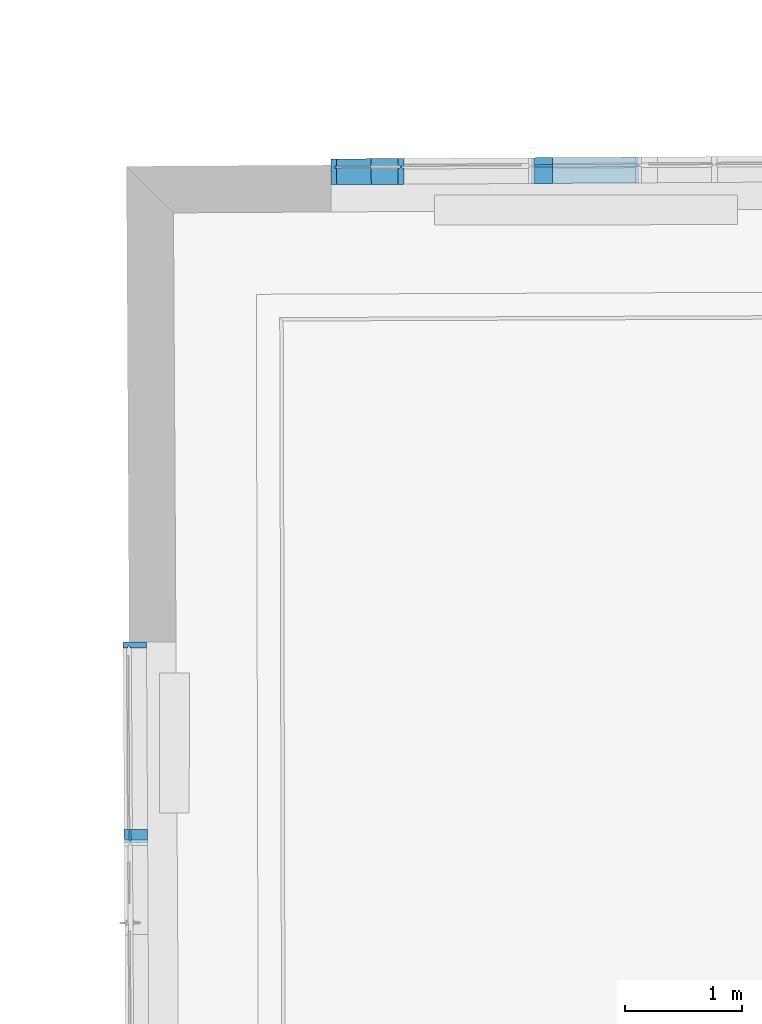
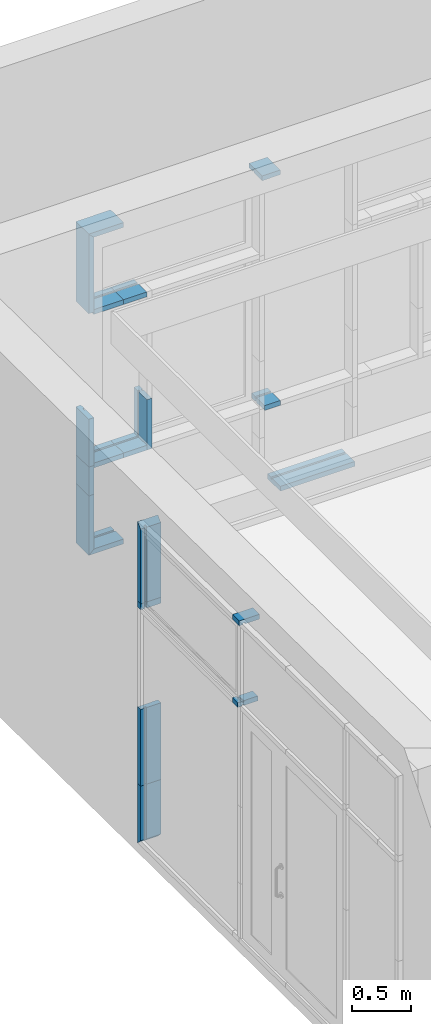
# One storey, part 160 of 196: 20 building element parts, 2 elements without a shape of their own.
"""IFC2X3 building model written with IfcOpenShell, lengths in metres."""

from ifc_helpers import new_model, entity, si_unit, converted_unit, derived_unit, money_unit, direction, frame, origin_with_axes, place, context, subcontext, project, spatial, faceted_brep, material, type_object, element, aggregate, save


model = new_model("IFC2X3")

# Units and contexts
model_context = context("Model", 3, precision=1e-05, world=origin_with_axes(), true_north=direction((0.0, 1.0)))
body_context = subcontext(model_context, "Body", "Model", "MODEL_VIEW")
ifc_project = project(units=[si_unit("LENGTHUNIT", "METRE"), si_unit("AREAUNIT", "SQUARE_METRE"), si_unit("VOLUMEUNIT", "CUBIC_METRE"), converted_unit("PLANEANGLEUNIT", "DEGREE", entity("IfcPlaneAngleMeasure", 0.0174532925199), si_unit("PLANEANGLEUNIT", "RADIAN"), dimensions=[0, 0, 0, 0, 0, 0, 0]), money_unit("EUR"), converted_unit("TIMEUNIT", "Year", entity("IfcTimeMeasure", 31556926.0), si_unit("TIMEUNIT", "SECOND"), dimensions=[0, 0, 1, 0, 0, 0, 0]), si_unit("MASSUNIT", "GRAM", prefix="KILO"), si_unit("THERMODYNAMICTEMPERATUREUNIT", "DEGREE_CELSIUS"), si_unit("LUMINOUSINTENSITYUNIT", "LUMEN"), si_unit("ENERGYUNIT", "JOULE", prefix="MEGA"), derived_unit("THERMALCONDUCTANCEUNIT", [(si_unit("POWERUNIT", "WATT"), 1), (si_unit("LENGTHUNIT", "METRE"), -1), (si_unit("THERMODYNAMICTEMPERATUREUNIT", "KELVIN"), -1)]), derived_unit("SPECIFICHEATCAPACITYUNIT", [(si_unit("ENERGYUNIT", "JOULE"), 1), (si_unit("MASSUNIT", "GRAM", prefix="KILO"), -1), (si_unit("THERMODYNAMICTEMPERATUREUNIT", "KELVIN"), -1)]), derived_unit("MASSDENSITYUNIT", [(si_unit("MASSUNIT", "GRAM", prefix="KILO"), 1), (si_unit("VOLUMEUNIT", "CUBIC_METRE"), -1)])], contexts=[model_context])

# Site, building, storey
site_placement = place(None, origin_with_axes())
site = spatial("IfcSite", under=ifc_project, at=site_placement, Name="Gelände", CompositionType="ELEMENT")
building_placement = place(site_placement, origin_with_axes())
building = spatial("IfcBuilding", under=site, at=building_placement, Name="Gebäude", CompositionType="ELEMENT")
storey_placement = place(building_placement, frame((0.0, 0.0, -3.0), z_axis=(0.0, 0.0, 1.0), x_axis=(1.0, 0.0, 0.0)))
storey = spatial("IfcBuildingStorey", under=building, at=storey_placement, Name="KELLERGESCHOSS", CompositionType="ELEMENT", Elevation=-3.0)

# Proxy, building element parts
building_element_proxy_type = type_object("IfcBuildingElementProxyType", Name="Fassadentyp", PredefinedType="NOTDEFINED")
proxy_1_placement = place(storey_placement, frame((-34.913387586, 47.2552574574, 0.421025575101), z_axis=(0.0, 0.0, 1.0), x_axis=(1.0, 0.0, 0.0)))
proxy_1 = element("IfcBuildingElementProxy", 1, at=proxy_1_placement, inside=storey, type_object=building_element_proxy_type, Name="Fassade-002")
ifc_material = material(Name="53_Metall, Aluminium")
building_element_part_1_placement = place(proxy_1_placement, origin_with_axes())
building_element_part_1 = element("IfcBuildingElementPart", 2, at=building_element_part_1_placement, material=ifc_material, Name="53_Metall, Aluminium", context=body_context, shape_type="Brep", body=[
    faceted_brep([(-0.00495621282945, 2.55018641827, 0.620000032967), (-0.00486824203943, 2.53518667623, 0.620000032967), (0.135129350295, 2.53600773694, 0.620000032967), (0.134836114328, 2.58600687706, 0.620000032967), (-0.0651604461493, 2.58483393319, 0.620000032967), (-0.0648672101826, 2.53483479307, 0.620000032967), (-0.0248678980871, 2.53506938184, 0.620000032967), (-0.0249558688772, 2.55006912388, 0.620000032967), (-0.00495621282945, 2.55018641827, 0.0349999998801), (-0.00486824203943, 2.53518667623, 0.0499999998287), (0.135129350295, 2.53600773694, 0.0499999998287), (0.134836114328, 2.58600687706, 0.0), (-0.0651604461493, 2.58483393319, 0.0), (-0.0648672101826, 2.53483479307, 0.0499999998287), (-0.0248678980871, 2.53506938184, 0.0499999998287), (-0.0249558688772, 2.55006912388, 0.0349999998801)], [[[0, 1, 2, 3, 4, 5, 6, 7]], [[0, 8, 9, 1]], [[9, 10, 2, 1]], [[2, 10, 11, 3]], [[3, 11, 12, 4]], [[4, 12, 13, 5]], [[6, 5, 13, 14]], [[14, 15, 7, 6]], [[7, 15, 8, 0]], [[8, 15, 14, 13, 12, 11, 10, 9]]]),
])
building_element_part_2_placement = place(proxy_1_placement, origin_with_axes())
building_element_part_2 = element("IfcBuildingElementPart", 3, at=building_element_part_2_placement, material=ifc_material, Name="53_Metall, Aluminium", context=body_context, shape_type="Brep", body=[
    faceted_brep([(-0.00495621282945, 2.55018641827, 3.31499994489), (-0.00486824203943, 2.53518667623, 3.29999994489), (0.135129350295, 2.53600773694, 3.29999994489), (0.134836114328, 2.58600687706, 3.34999994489), (-0.0651604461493, 2.58483393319, 3.34999994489), (-0.0648672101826, 2.53483479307, 3.29999994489), (-0.0248678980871, 2.53506938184, 3.29999994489), (-0.0249558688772, 2.55006912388, 3.31499994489), (-0.00495621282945, 2.55018641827, 2.52000003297), (-0.00486824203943, 2.53518667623, 2.52000003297), (0.135129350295, 2.53600773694, 2.52000003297), (0.134836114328, 2.58600687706, 2.52000003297), (-0.0651604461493, 2.58483393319, 2.52000003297), (-0.0648672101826, 2.53483479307, 2.52000003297), (-0.0248678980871, 2.53506938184, 2.52000003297), (-0.0249558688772, 2.55006912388, 2.52000003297)], [[[0, 1, 2, 3, 4, 5, 6, 7]], [[0, 8, 9, 1]], [[9, 10, 2, 1]], [[10, 11, 3, 2]], [[11, 12, 4, 3]], [[12, 13, 5, 4]], [[6, 5, 13, 14]], [[14, 15, 7, 6]], [[7, 15, 8, 0]], [[8, 15, 14, 13, 12, 11, 10, 9]]]),
])
building_element_part_3_placement = place(proxy_1_placement, origin_with_axes())
building_element_part_3 = element("IfcBuildingElementPart", 4, at=building_element_part_3_placement, material=ifc_material, Name="53_Metall, Aluminium", context=body_context, shape_type="Brep", body=[
    faceted_brep([(0.00490654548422, 0.868505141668, 3.31499994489), (0.00490654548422, 0.868505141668, 3.29999994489), (0.144904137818, 0.869326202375, 3.29999994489), (0.144904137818, 0.869326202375, 3.34999994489), (-0.0550924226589, 0.868153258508, 3.34999994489), (-0.0550924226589, 0.868153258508, 3.29999994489), (-0.0150931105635, 0.868387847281, 3.29999994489), (-0.0150931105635, 0.868387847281, 3.31499994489), (0.00424004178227, 0.98214949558, 3.31499994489), (0.00424004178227, 0.98214949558, 3.29999994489), (0.144237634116, 0.982970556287, 3.29999994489), (0.144237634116, 0.982970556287, 3.34999994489), (-0.0557589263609, 0.98179761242, 3.34999994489), (-0.0557589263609, 0.98179761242, 3.29999994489), (-0.0157596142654, 0.982032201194, 3.29999994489), (-0.0157596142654, 0.982032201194, 3.31499994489)], [[[0, 1, 2, 3, 4, 5, 6, 7]], [[0, 8, 9, 1]], [[9, 10, 2, 1]], [[10, 11, 3, 2]], [[11, 12, 4, 3]], [[12, 13, 5, 4]], [[6, 5, 13, 14]], [[14, 15, 7, 6]], [[7, 15, 8, 0]], [[8, 15, 14, 13, 12, 11, 10, 9]]]),
])
building_element_part_4_placement = place(proxy_1_placement, origin_with_axes())
building_element_part_4 = element("IfcBuildingElementPart", 5, at=building_element_part_4_placement, material=ifc_material, Name="53_Metall, Aluminium", context=body_context, shape_type="Brep", body=[
    faceted_brep([(0.00475992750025, 0.893504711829, 2.44764338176), (0.00475992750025, 0.893504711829, 2.43264338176), (0.144757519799, 0.89432577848, 2.43264338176), (0.144757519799, 0.89432577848, 2.48264338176), (0.00475992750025, 0.893504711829, 2.48264338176), (0.00475992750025, 0.893504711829, 2.46764338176), (-0.0152397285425, 0.893387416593, 2.46764338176), (-0.0152397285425, 0.893387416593, 2.48264338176), (-0.055239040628, 0.893152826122, 2.48264338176), (-0.055239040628, 0.893152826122, 2.43264338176), (-0.0152397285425, 0.893387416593, 2.43264338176), (-0.0152397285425, 0.893387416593, 2.44764338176), (0.00424004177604, 0.982149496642, 2.44764338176), (0.00424004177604, 0.982149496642, 2.43264338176), (0.14423763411, 0.982970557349, 2.43264338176), (0.14423763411, 0.982970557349, 2.48264338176), (0.00424004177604, 0.982149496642, 2.48264338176), (0.00424004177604, 0.982149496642, 2.46764338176), (-0.0157596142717, 0.982032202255, 2.46764338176), (-0.0157596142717, 0.982032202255, 2.48264338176), (-0.0557589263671, 0.981797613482, 2.48264338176), (-0.0557589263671, 0.981797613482, 2.43264338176), (-0.0157596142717, 0.982032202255, 2.43264338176), (-0.0157596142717, 0.982032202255, 2.44764338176)], [[[0, 1, 2, 3, 4, 5, 6, 7, 8, 9, 10, 11]], [[1, 0, 12, 13]], [[1, 13, 14, 2]], [[3, 2, 14, 15]], [[4, 3, 15, 16]], [[4, 16, 17, 5]], [[5, 17, 18, 6]], [[7, 6, 18, 19]], [[19, 20, 8, 7]], [[9, 8, 20, 21]], [[22, 10, 9, 21]], [[11, 10, 22, 23]], [[0, 11, 23, 12]], [[23, 22, 21, 20, 19, 18, 17, 16, 15, 14, 13, 12]]]),
])
building_element_part_5_placement = place(proxy_1_placement, origin_with_axes())
building_element_part_5 = element("IfcBuildingElementPart", 6, at=building_element_part_5_placement, material=ifc_material, Name="53_Metall, Aluminium", context=body_context, shape_type="Brep", body=[
    faceted_brep([(-0.00495621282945, 2.55018641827, 1.42000003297), (-0.00486824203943, 2.53518667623, 1.42000003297), (0.135129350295, 2.53600773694, 1.42000003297), (0.134836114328, 2.58600687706, 1.42000003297), (-0.0651604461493, 2.58483393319, 1.42000003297), (-0.0648672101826, 2.53483479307, 1.42000003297), (-0.0248678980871, 2.53506938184, 1.42000003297), (-0.0249558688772, 2.55006912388, 1.42000003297), (-0.00495621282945, 2.55018641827, 0.620000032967), (-0.00486824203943, 2.53518667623, 0.620000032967), (0.135129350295, 2.53600773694, 0.620000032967), (0.134836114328, 2.58600687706, 0.620000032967), (-0.0651604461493, 2.58483393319, 0.620000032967), (-0.0648672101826, 2.53483479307, 0.620000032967), (-0.0248678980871, 2.53506938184, 0.620000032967), (-0.0249558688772, 2.55006912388, 0.620000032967)], [[[0, 1, 2, 3, 4, 5, 6, 7]], [[0, 8, 9, 1]], [[9, 10, 2, 1]], [[10, 11, 3, 2]], [[11, 12, 4, 3]], [[12, 13, 5, 4]], [[6, 5, 13, 14]], [[14, 15, 7, 6]], [[7, 15, 8, 0]], [[8, 15, 14, 13, 12, 11, 10, 9]]]),
])
building_element_part_6_placement = place(proxy_1_placement, origin_with_axes())
building_element_part_6 = element("IfcBuildingElementPart", 7, at=building_element_part_6_placement, material=ifc_material, Name="53_Metall, Aluminium", context=body_context, shape_type="Brep", body=[
    faceted_brep([(-0.00495621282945, 2.55018641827, 2.52000003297), (-0.00486824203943, 2.53518667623, 2.52000003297), (0.135129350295, 2.53600773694, 2.52000003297), (0.134836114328, 2.58600687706, 2.52000003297), (-0.0651604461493, 2.58483393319, 2.52000003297), (-0.0648672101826, 2.53483479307, 2.52000003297), (-0.0248678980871, 2.53506938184, 2.52000003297), (-0.0249558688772, 2.55006912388, 2.52000003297), (-0.00495621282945, 2.55018641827, 2.45764338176), (-0.00486824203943, 2.53518667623, 2.45764338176), (0.135129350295, 2.53600773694, 2.45764338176), (0.134836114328, 2.58600687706, 2.45764338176), (-0.0651604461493, 2.58483393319, 2.45764338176), (-0.0648672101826, 2.53483479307, 2.45764338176), (-0.0248678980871, 2.53506938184, 2.45764338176), (-0.0249558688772, 2.55006912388, 2.45764338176)], [[[0, 1, 2, 3, 4, 5, 6, 7]], [[0, 8, 9, 1]], [[9, 10, 2, 1]], [[10, 11, 3, 2]], [[11, 12, 4, 3]], [[12, 13, 5, 4]], [[6, 5, 13, 14]], [[14, 15, 7, 6]], [[7, 15, 8, 0]], [[8, 15, 14, 13, 12, 11, 10, 9]]]),
])
aggregate(proxy_1, [building_element_part_1, building_element_part_2, building_element_part_3, building_element_part_4, building_element_part_5, building_element_part_6])

proxy_2_placement = place(storey_placement, frame((-32.8906294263, 53.9050625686, 0.421025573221), z_axis=(0.0, 0.0, 1.0), x_axis=(1.0, 0.0, 0.0)))
proxy_2 = element("IfcBuildingElementProxy", 8, at=proxy_2_placement, inside=storey, type_object=building_element_proxy_type, Name="Fassade-002")
building_element_part_7_placement = place(proxy_2_placement, origin_with_axes())
building_element_part_7 = element("IfcBuildingElementPart", 9, at=building_element_part_7_placement, material=ifc_material, Name="53_Metall, Aluminium", context=body_context, shape_type="Brep", body=[
    faceted_brep([(0.0340589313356, -0.00979896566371, 2.51000003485), (0.0340589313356, -0.00979896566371, 2.49500003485), (0.0348859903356, -0.14979652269, 2.49500003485), (0.0348859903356, -0.14979652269, 2.54500003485), (0.0340589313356, -0.00979896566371, 2.54500003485), (0.0340589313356, -0.00979896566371, 2.53000003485), (0.0339407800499, 0.0102006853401, 2.53000003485), (0.0339407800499, 0.0102006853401, 2.54500003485), (0.0335863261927, 0.0701996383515, 2.54500003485), (0.0335863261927, 0.0701996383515, 2.49500003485), (0.0339407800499, 0.0102006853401, 2.49500003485), (0.0339407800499, 0.0102006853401, 2.51000003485), (0.263602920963, -0.00844289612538, 2.51000003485), (0.263602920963, -0.00844289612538, 2.49500003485), (0.264429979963, -0.148440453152, 2.49500003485), (0.264429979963, -0.148440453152, 2.54500003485), (0.263602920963, -0.00844289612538, 2.54500003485), (0.263602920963, -0.00844289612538, 2.53000003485), (0.263484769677, 0.0115567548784, 2.53000003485), (0.263484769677, 0.0115567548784, 2.54500003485), (0.26313031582, 0.0715557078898, 2.54500003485), (0.26313031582, 0.0715557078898, 2.49500003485), (0.263484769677, 0.0115567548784, 2.49500003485), (0.263484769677, 0.0115567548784, 2.51000003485)], [[[0, 1, 2, 3, 4, 5, 6, 7, 8, 9, 10, 11]], [[1, 0, 12, 13]], [[1, 13, 14, 2]], [[2, 14, 15, 3]], [[4, 3, 15, 16]], [[4, 16, 17, 5]], [[5, 17, 18, 6]], [[7, 6, 18, 19]], [[19, 20, 8, 7]], [[8, 20, 21, 9]], [[22, 10, 9, 21]], [[11, 10, 22, 23]], [[0, 11, 23, 12]], [[23, 22, 21, 20, 19, 18, 17, 16, 15, 14, 13, 12]]]),
])
building_element_part_8_placement = place(proxy_2_placement, origin_with_axes())
building_element_part_8 = element("IfcBuildingElementPart", 10, at=building_element_part_8_placement, material=ifc_material, Name="53_Metall, Aluminium", context=body_context, shape_type="Brep", body=[
    faceted_brep([(-0.276151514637, -0.0116315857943, 0.0349999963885), (-0.276269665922, 0.00836806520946, 0.0349999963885), (-0.26126992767, 0.00845667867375, 0.0499999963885), (-0.261624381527, 0.0684556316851, 0.0499999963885), (-0.311623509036, 0.0681602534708, -3.61150487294e-09), (-0.310323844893, -0.151835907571, -3.61150487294e-09), (-0.260324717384, -0.151540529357, 0.0499999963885), (-0.261151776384, -0.01154297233, 0.0499999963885), (0.0340589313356, -0.00979896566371, 0.0349999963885), (0.0339407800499, 0.0102006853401, 0.0349999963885), (0.0339407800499, 0.0102006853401, 0.0499999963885), (0.0335863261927, 0.0701996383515, 0.0499999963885), (0.0335863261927, 0.0701996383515, -3.61150487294e-09), (0.0348859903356, -0.14979652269, -3.61150487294e-09), (0.0348859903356, -0.14979652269, 0.0499999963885), (0.0340589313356, -0.00979896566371, 0.0499999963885)], [[[0, 1, 2, 3, 4, 5, 6, 7]], [[1, 0, 8, 9]], [[10, 2, 1, 9]], [[2, 10, 11, 3]], [[12, 4, 3, 11]], [[13, 5, 4, 12]], [[14, 6, 5, 13]], [[15, 7, 6, 14]], [[0, 7, 15, 8]], [[8, 15, 14, 13, 12, 11, 10, 9]]]),
])
building_element_part_9_placement = place(proxy_2_placement, origin_with_axes())
building_element_part_9 = element("IfcBuildingElementPart", 11, at=building_element_part_9_placement, material=ifc_material, Name="53_Metall, Aluminium", context=body_context, shape_type="Brep", body=[
    faceted_brep([(1.58403188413, -0.000642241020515, 0.0349999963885), (1.58391373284, 0.0193574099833, 0.0349999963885), (1.58391373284, 0.0193574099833, 0.0499999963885), (1.58355927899, 0.0793563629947, 0.0499999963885), (1.58355927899, 0.0793563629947, -3.61150487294e-09), (1.58485894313, -0.140639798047, -3.61150487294e-09), (1.58485894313, -0.140639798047, 0.0499999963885), (1.58403188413, -0.000642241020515, 0.0499999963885), (2.3205840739, 0.00370906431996, 0.0349999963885), (2.32046592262, 0.0237087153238, 0.0349999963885), (2.32046592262, 0.0237087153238, 0.0499999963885), (2.32011146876, 0.0837076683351, 0.0499999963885), (2.32011146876, 0.0837076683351, -3.61150487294e-09), (2.3214111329, -0.136288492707, -3.61150487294e-09), (2.3214111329, -0.136288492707, 0.0499999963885), (2.3205840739, 0.00370906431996, 0.0499999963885)], [[[0, 1, 2, 3, 4, 5, 6, 7]], [[1, 0, 8, 9]], [[10, 2, 1, 9]], [[2, 10, 11, 3]], [[12, 4, 3, 11]], [[13, 5, 4, 12]], [[14, 6, 5, 13]], [[15, 7, 6, 14]], [[0, 7, 15, 8]], [[8, 15, 14, 13, 12, 11, 10, 9]]]),
])
building_element_part_10_placement = place(proxy_2_placement, origin_with_axes())
building_element_part_10 = element("IfcBuildingElementPart", 12, at=building_element_part_10_placement, material=ifc_material, Name="53_Metall, Aluminium", context=body_context, shape_type="Brep", body=[
    faceted_brep([(1.42901902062, -0.00155800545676, 0.910851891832), (1.42901902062, -0.00155800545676, 0.895851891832), (1.42984607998, -0.141555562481, 0.895851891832), (1.42984607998, -0.141555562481, 0.945851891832), (1.42901902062, -0.00155800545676, 0.945851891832), (1.42901902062, -0.00155800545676, 0.930851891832), (1.42890086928, 0.0184416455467, 0.930851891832), (1.42890086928, 0.0184416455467, 0.945851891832), (1.42854641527, 0.0784405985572, 0.945851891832), (1.42854641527, 0.0784405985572, 0.895851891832), (1.42890086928, 0.0184416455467, 0.895851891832), (1.42890086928, 0.0184416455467, 0.910851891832), (1.5840318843, -0.000642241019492, 0.910851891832), (1.5840318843, -0.000642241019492, 0.895851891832), (1.5848589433, -0.140639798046, 0.895851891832), (1.5848589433, -0.140639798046, 0.945851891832), (1.5840318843, -0.000642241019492, 0.945851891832), (1.5840318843, -0.000642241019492, 0.930851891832), (1.58391373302, 0.0193574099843, 0.930851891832), (1.58391373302, 0.0193574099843, 0.945851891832), (1.58355927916, 0.0793563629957, 0.945851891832), (1.58355927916, 0.0793563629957, 0.895851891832), (1.58391373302, 0.0193574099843, 0.895851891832), (1.58391373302, 0.0193574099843, 0.910851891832)], [[[0, 1, 2, 3, 4, 5, 6, 7, 8, 9, 10, 11]], [[1, 0, 12, 13]], [[1, 13, 14, 2]], [[3, 2, 14, 15]], [[4, 3, 15, 16]], [[4, 16, 17, 5]], [[5, 17, 18, 6]], [[7, 6, 18, 19]], [[19, 20, 8, 7]], [[9, 8, 20, 21]], [[22, 10, 9, 21]], [[11, 10, 22, 23]], [[0, 11, 23, 12]], [[23, 22, 21, 20, 19, 18, 17, 16, 15, 14, 13, 12]]]),
])
building_element_part_11_placement = place(proxy_2_placement, origin_with_axes())
building_element_part_11 = element("IfcBuildingElementPart", 13, at=building_element_part_11_placement, material=ifc_material, Name="53_Metall, Aluminium", context=body_context, shape_type="Brep", body=[
    faceted_brep([(-0.276151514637, -0.0116315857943, 3.31499994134), (-0.261151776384, -0.01154297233, 3.29999994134), (-0.260324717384, -0.151540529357, 3.29999994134), (-0.310323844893, -0.151835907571, 3.34999994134), (-0.311623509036, 0.0681602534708, 3.34999994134), (-0.261624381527, 0.0684556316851, 3.29999994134), (-0.26126992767, 0.00845667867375, 3.29999994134), (-0.276269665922, 0.00836806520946, 3.31499994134), (0.0340589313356, -0.00979896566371, 3.31499994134), (0.0340589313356, -0.00979896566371, 3.29999994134), (0.0348859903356, -0.14979652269, 3.29999994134), (0.0348859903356, -0.14979652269, 3.34999994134), (0.0335863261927, 0.0701996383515, 3.34999994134), (0.0335863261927, 0.0701996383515, 3.29999994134), (0.0339407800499, 0.0102006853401, 3.29999994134), (0.0339407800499, 0.0102006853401, 3.31499994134)], [[[0, 1, 2, 3, 4, 5, 6, 7]], [[0, 8, 9, 1]], [[9, 10, 2, 1]], [[10, 11, 3, 2]], [[11, 12, 4, 3]], [[12, 13, 5, 4]], [[6, 5, 13, 14]], [[14, 15, 7, 6]], [[7, 15, 8, 0]], [[8, 15, 14, 13, 12, 11, 10, 9]]]),
])
building_element_part_12_placement = place(proxy_2_placement, origin_with_axes())
building_element_part_12 = element("IfcBuildingElementPart", 14, at=building_element_part_12_placement, material=ifc_material, Name="53_Metall, Aluminium", context=body_context, shape_type="Brep", body=[
    faceted_brep([(-0.261151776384, -0.01154297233, 2.51000003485), (-0.261151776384, -0.01154297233, 2.49500003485), (-0.260324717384, -0.151540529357, 2.49500003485), (-0.260324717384, -0.151540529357, 2.54500003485), (-0.261151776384, -0.01154297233, 2.54500003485), (-0.261151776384, -0.01154297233, 2.53000003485), (-0.26126992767, 0.00845667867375, 2.53000003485), (-0.26126992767, 0.00845667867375, 2.54500003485), (-0.261624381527, 0.0684556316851, 2.54500003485), (-0.261624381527, 0.0684556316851, 2.49500003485), (-0.26126992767, 0.00845667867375, 2.49500003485), (-0.26126992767, 0.00845667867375, 2.51000003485), (0.0340589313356, -0.00979896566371, 2.51000003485), (0.0340589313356, -0.00979896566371, 2.49500003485), (0.0348859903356, -0.14979652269, 2.49500003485), (0.0348859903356, -0.14979652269, 2.54500003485), (0.0340589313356, -0.00979896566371, 2.54500003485), (0.0340589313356, -0.00979896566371, 2.53000003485), (0.0339407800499, 0.0102006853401, 2.53000003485), (0.0339407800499, 0.0102006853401, 2.54500003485), (0.0335863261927, 0.0701996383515, 2.54500003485), (0.0335863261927, 0.0701996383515, 2.49500003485), (0.0339407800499, 0.0102006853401, 2.49500003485), (0.0339407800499, 0.0102006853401, 2.51000003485)], [[[0, 1, 2, 3, 4, 5, 6, 7, 8, 9, 10, 11]], [[1, 0, 12, 13]], [[1, 13, 14, 2]], [[3, 2, 14, 15]], [[4, 3, 15, 16]], [[4, 16, 17, 5]], [[5, 17, 18, 6]], [[7, 6, 18, 19]], [[19, 20, 8, 7]], [[9, 8, 20, 21]], [[22, 10, 9, 21]], [[11, 10, 22, 23]], [[0, 11, 23, 12]], [[23, 22, 21, 20, 19, 18, 17, 16, 15, 14, 13, 12]]]),
])
building_element_part_13_placement = place(proxy_2_placement, origin_with_axes())
building_element_part_13 = element("IfcBuildingElementPart", 15, at=building_element_part_13_placement, material=ifc_material, Name="53_Metall, Aluminium", context=body_context, shape_type="Brep", body=[
    faceted_brep([(-0.276151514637, -0.0116315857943, 3.31499996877), (-0.276269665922, 0.00836806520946, 3.31499996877), (-0.26126992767, 0.00845667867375, 3.29999996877), (-0.261624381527, 0.0684556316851, 3.29999996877), (-0.311623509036, 0.0681602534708, 3.34999996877), (-0.310323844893, -0.151835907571, 3.34999996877), (-0.260324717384, -0.151540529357, 3.29999996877), (-0.261151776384, -0.01154297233, 3.29999996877), (-0.276151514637, -0.0116315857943, 2.52000003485), (-0.276269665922, 0.00836806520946, 2.52000003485), (-0.26126992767, 0.00845667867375, 2.52000003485), (-0.261624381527, 0.0684556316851, 2.52000003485), (-0.311623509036, 0.0681602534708, 2.52000003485), (-0.310323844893, -0.151835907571, 2.52000003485), (-0.260324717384, -0.151540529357, 2.52000003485), (-0.261151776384, -0.01154297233, 2.52000003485)], [[[0, 1, 2, 3, 4, 5, 6, 7]], [[1, 0, 8, 9]], [[10, 2, 1, 9]], [[2, 10, 11, 3]], [[12, 4, 3, 11]], [[13, 5, 4, 12]], [[14, 6, 5, 13]], [[15, 7, 6, 14]], [[0, 7, 15, 8]], [[8, 15, 14, 13, 12, 11, 10, 9]]]),
])
building_element_part_14_placement = place(proxy_2_placement, origin_with_axes())
building_element_part_14 = element("IfcBuildingElementPart", 16, at=building_element_part_14_placement, material=ifc_material, Name="53_Metall, Aluminium", context=body_context, shape_type="Brep", body=[
    faceted_brep([(1.40401946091, -0.00170569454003, 3.31499994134), (1.40401946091, -0.00170569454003, 3.29999994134), (1.40484651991, -0.141703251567, 3.29999994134), (1.40484651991, -0.141703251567, 3.34999994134), (1.40354685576, 0.0782929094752, 3.34999994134), (1.40354685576, 0.0782929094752, 3.29999994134), (1.40390130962, 0.0182939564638, 3.29999994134), (1.40390130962, 0.0182939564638, 3.31499994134), (1.58403188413, -0.000642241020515, 3.31499994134), (1.58403188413, -0.000642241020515, 3.29999994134), (1.58485894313, -0.140639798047, 3.29999994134), (1.58485894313, -0.140639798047, 3.34999994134), (1.58355927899, 0.0793563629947, 3.34999994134), (1.58355927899, 0.0793563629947, 3.29999994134), (1.58391373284, 0.0193574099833, 3.29999994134), (1.58391373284, 0.0193574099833, 3.31499994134)], [[[0, 1, 2, 3, 4, 5, 6, 7]], [[0, 8, 9, 1]], [[9, 10, 2, 1]], [[10, 11, 3, 2]], [[11, 12, 4, 3]], [[12, 13, 5, 4]], [[6, 5, 13, 14]], [[14, 15, 7, 6]], [[7, 15, 8, 0]], [[8, 15, 14, 13, 12, 11, 10, 9]]]),
])
building_element_part_15_placement = place(proxy_2_placement, origin_with_axes())
building_element_part_15 = element("IfcBuildingElementPart", 17, at=building_element_part_15_placement, material=ifc_material, Name="53_Metall, Aluminium", context=body_context, shape_type="Brep", body=[
    faceted_brep([(-0.261151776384, -0.01154297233, 0.910851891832), (-0.261151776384, -0.01154297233, 0.895851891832), (-0.260324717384, -0.151540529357, 0.895851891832), (-0.260324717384, -0.151540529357, 0.945851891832), (-0.261151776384, -0.01154297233, 0.945851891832), (-0.261151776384, -0.01154297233, 0.930851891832), (-0.26126992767, 0.00845667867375, 0.930851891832), (-0.26126992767, 0.00845667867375, 0.945851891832), (-0.261624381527, 0.0684556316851, 0.945851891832), (-0.261624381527, 0.0684556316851, 0.895851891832), (-0.26126992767, 0.00845667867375, 0.895851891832), (-0.26126992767, 0.00845667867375, 0.910851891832), (0.0340589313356, -0.00979896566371, 0.910851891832), (0.0340589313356, -0.00979896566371, 0.895851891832), (0.0348859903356, -0.14979652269, 0.895851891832), (0.0348859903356, -0.14979652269, 0.945851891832), (0.0340589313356, -0.00979896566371, 0.945851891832), (0.0340589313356, -0.00979896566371, 0.930851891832), (0.0339407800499, 0.0102006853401, 0.930851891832), (0.0339407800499, 0.0102006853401, 0.945851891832), (0.0335863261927, 0.0701996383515, 0.945851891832), (0.0335863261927, 0.0701996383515, 0.895851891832), (0.0339407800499, 0.0102006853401, 0.895851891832), (0.0339407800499, 0.0102006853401, 0.910851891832)], [[[0, 1, 2, 3, 4, 5, 6, 7, 8, 9, 10, 11]], [[1, 0, 12, 13]], [[1, 13, 14, 2]], [[3, 2, 14, 15]], [[4, 3, 15, 16]], [[4, 16, 17, 5]], [[5, 17, 18, 6]], [[7, 6, 18, 19]], [[19, 20, 8, 7]], [[9, 8, 20, 21]], [[22, 10, 9, 21]], [[11, 10, 22, 23]], [[0, 11, 23, 12]], [[23, 22, 21, 20, 19, 18, 17, 16, 15, 14, 13, 12]]]),
])
building_element_part_16_placement = place(proxy_2_placement, origin_with_axes())
building_element_part_16 = element("IfcBuildingElementPart", 18, at=building_element_part_16_placement, material=ifc_material, Name="53_Metall, Aluminium", context=body_context, shape_type="Brep", body=[
    faceted_brep([(0.0340589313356, -0.00979896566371, 0.910851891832), (0.0340589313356, -0.00979896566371, 0.895851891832), (0.0348859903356, -0.14979652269, 0.895851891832), (0.0348859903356, -0.14979652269, 0.945851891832), (0.0340589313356, -0.00979896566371, 0.945851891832), (0.0340589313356, -0.00979896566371, 0.930851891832), (0.0339407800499, 0.0102006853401, 0.930851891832), (0.0339407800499, 0.0102006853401, 0.945851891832), (0.0335863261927, 0.0701996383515, 0.945851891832), (0.0335863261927, 0.0701996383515, 0.895851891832), (0.0339407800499, 0.0102006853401, 0.895851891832), (0.0339407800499, 0.0102006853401, 0.910851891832), (0.263602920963, -0.00844289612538, 0.910851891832), (0.263602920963, -0.00844289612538, 0.895851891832), (0.264429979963, -0.148440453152, 0.895851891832), (0.264429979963, -0.148440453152, 0.945851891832), (0.263602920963, -0.00844289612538, 0.945851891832), (0.263602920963, -0.00844289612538, 0.930851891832), (0.263484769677, 0.0115567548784, 0.930851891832), (0.263484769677, 0.0115567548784, 0.945851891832), (0.26313031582, 0.0715557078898, 0.945851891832), (0.26313031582, 0.0715557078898, 0.895851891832), (0.263484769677, 0.0115567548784, 0.895851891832), (0.263484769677, 0.0115567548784, 0.910851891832)], [[[0, 1, 2, 3, 4, 5, 6, 7, 8, 9, 10, 11]], [[1, 0, 12, 13]], [[1, 13, 14, 2]], [[2, 14, 15, 3]], [[4, 3, 15, 16]], [[4, 16, 17, 5]], [[5, 17, 18, 6]], [[7, 6, 18, 19]], [[19, 20, 8, 7]], [[8, 20, 21, 9]], [[22, 10, 9, 21]], [[11, 10, 22, 23]], [[0, 11, 23, 12]], [[23, 22, 21, 20, 19, 18, 17, 16, 15, 14, 13, 12]]]),
])
building_element_part_17_placement = place(proxy_2_placement, origin_with_axes())
building_element_part_17 = element("IfcBuildingElementPart", 19, at=building_element_part_17_placement, material=ifc_material, Name="53_Metall, Aluminium", context=body_context, shape_type="Brep", body=[
    faceted_brep([(-0.276151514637, -0.0116315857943, 1.42000003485), (-0.276269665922, 0.00836806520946, 1.42000003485), (-0.26126992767, 0.00845667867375, 1.42000003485), (-0.261624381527, 0.0684556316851, 1.42000003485), (-0.311623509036, 0.0681602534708, 1.42000003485), (-0.310323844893, -0.151835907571, 1.42000003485), (-0.260324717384, -0.151540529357, 1.42000003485), (-0.261151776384, -0.01154297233, 1.42000003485), (-0.276151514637, -0.0116315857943, 0.920851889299), (-0.276269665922, 0.00836806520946, 0.920851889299), (-0.26126992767, 0.00845667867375, 0.920851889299), (-0.261624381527, 0.0684556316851, 0.920851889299), (-0.311623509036, 0.0681602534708, 0.920851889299), (-0.310323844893, -0.151835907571, 0.920851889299), (-0.260324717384, -0.151540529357, 0.920851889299), (-0.261151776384, -0.01154297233, 0.920851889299)], [[[0, 1, 2, 3, 4, 5, 6, 7]], [[1, 0, 8, 9]], [[10, 2, 1, 9]], [[2, 10, 11, 3]], [[12, 4, 3, 11]], [[13, 5, 4, 12]], [[14, 6, 5, 13]], [[15, 7, 6, 14]], [[0, 7, 15, 8]], [[8, 15, 14, 13, 12, 11, 10, 9]]]),
])
building_element_part_18_placement = place(proxy_2_placement, origin_with_axes())
building_element_part_18 = element("IfcBuildingElementPart", 20, at=building_element_part_18_placement, material=ifc_material, Name="53_Metall, Aluminium", context=body_context, shape_type="Brep", body=[
    faceted_brep([(-0.276151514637, -0.0116315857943, 0.920851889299), (-0.276269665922, 0.00836806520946, 0.920851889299), (-0.26126992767, 0.00845667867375, 0.920851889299), (-0.261624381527, 0.0684556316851, 0.920851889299), (-0.311623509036, 0.0681602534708, 0.920851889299), (-0.310323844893, -0.151835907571, 0.920851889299), (-0.260324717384, -0.151540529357, 0.920851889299), (-0.261151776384, -0.01154297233, 0.920851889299), (-0.276151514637, -0.0116315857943, 0.620000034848), (-0.276269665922, 0.00836806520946, 0.620000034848), (-0.26126992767, 0.00845667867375, 0.620000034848), (-0.261624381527, 0.0684556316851, 0.620000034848), (-0.311623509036, 0.0681602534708, 0.620000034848), (-0.310323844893, -0.151835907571, 0.620000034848), (-0.260324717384, -0.151540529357, 0.620000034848), (-0.261151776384, -0.01154297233, 0.620000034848)], [[[0, 1, 2, 3, 4, 5, 6, 7]], [[1, 0, 8, 9]], [[10, 2, 1, 9]], [[2, 10, 11, 3]], [[12, 4, 3, 11]], [[13, 5, 4, 12]], [[14, 6, 5, 13]], [[15, 7, 6, 14]], [[0, 7, 15, 8]], [[8, 15, 14, 13, 12, 11, 10, 9]]]),
])
building_element_part_19_placement = place(proxy_2_placement, origin_with_axes())
building_element_part_19 = element("IfcBuildingElementPart", 21, at=building_element_part_19_placement, material=ifc_material, Name="53_Metall, Aluminium", context=body_context, shape_type="Brep", body=[
    faceted_brep([(-0.276151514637, -0.0116315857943, 0.620000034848), (-0.276269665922, 0.00836806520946, 0.620000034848), (-0.26126992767, 0.00845667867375, 0.620000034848), (-0.261624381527, 0.0684556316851, 0.620000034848), (-0.311623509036, 0.0681602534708, 0.620000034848), (-0.310323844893, -0.151835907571, 0.620000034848), (-0.260324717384, -0.151540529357, 0.620000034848), (-0.261151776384, -0.01154297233, 0.620000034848), (-0.276151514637, -0.0116315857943, 0.0349999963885), (-0.276269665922, 0.00836806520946, 0.0349999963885), (-0.26126992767, 0.00845667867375, 0.0499999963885), (-0.261624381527, 0.0684556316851, 0.0499999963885), (-0.311623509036, 0.0681602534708, -3.61150442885e-09), (-0.310323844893, -0.151835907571, -3.61150442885e-09), (-0.260324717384, -0.151540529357, 0.0499999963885), (-0.261151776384, -0.01154297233, 0.0499999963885)], [[[0, 1, 2, 3, 4, 5, 6, 7]], [[1, 0, 8, 9]], [[10, 2, 1, 9]], [[2, 10, 11, 3]], [[4, 3, 11, 12]], [[5, 4, 12, 13]], [[6, 5, 13, 14]], [[15, 7, 6, 14]], [[0, 7, 15, 8]], [[8, 15, 14, 13, 12, 11, 10, 9]]]),
])
building_element_part_20_placement = place(proxy_2_placement, origin_with_axes())
building_element_part_20 = element("IfcBuildingElementPart", 22, at=building_element_part_20_placement, material=ifc_material, Name="53_Metall, Aluminium", context=body_context, shape_type="Brep", body=[
    faceted_brep([(0.278602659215, -0.0083542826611, 1.42000003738), (0.263602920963, -0.00844289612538, 1.42000003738), (0.264429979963, -0.148440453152, 1.42000003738), (0.314429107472, -0.148145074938, 1.42000003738), (0.313602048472, -0.00814751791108, 1.42000003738), (0.298602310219, -0.00823613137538, 1.42000003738), (0.298484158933, 0.0117635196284, 1.42000003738), (0.313483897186, 0.0118521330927, 1.42000003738), (0.313129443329, 0.0718510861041, 1.42000003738), (0.26313031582, 0.0715557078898, 1.42000003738), (0.263484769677, 0.0115567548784, 1.42000003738), (0.27848450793, 0.0116453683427, 1.42000003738), (0.278602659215, -0.0083542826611, 0.895851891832), (0.263602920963, -0.00844289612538, 0.895851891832), (0.264429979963, -0.148440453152, 0.895851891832), (0.314429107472, -0.148145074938, 0.895851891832), (0.313602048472, -0.00814751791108, 0.895851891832), (0.298602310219, -0.00823613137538, 0.895851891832), (0.298484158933, 0.0117635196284, 0.895851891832), (0.313483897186, 0.0118521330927, 0.895851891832), (0.313129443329, 0.0718510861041, 0.895851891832), (0.26313031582, 0.0715557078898, 0.895851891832), (0.263484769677, 0.0115567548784, 0.895851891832), (0.27848450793, 0.0116453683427, 0.895851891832)], [[[0, 1, 2, 3, 4, 5, 6, 7, 8, 9, 10, 11]], [[1, 0, 12, 13]], [[1, 13, 14, 2]], [[3, 2, 14, 15]], [[4, 3, 15, 16]], [[4, 16, 17, 5]], [[5, 17, 18, 6]], [[7, 6, 18, 19]], [[19, 20, 8, 7]], [[9, 8, 20, 21]], [[22, 10, 9, 21]], [[11, 10, 22, 23]], [[0, 11, 23, 12]], [[23, 22, 21, 20, 19, 18, 17, 16, 15, 14, 13, 12]]]),
])
aggregate(proxy_2, [building_element_part_7, building_element_part_8, building_element_part_9, building_element_part_10, building_element_part_11, building_element_part_12, building_element_part_13, building_element_part_14, building_element_part_15, building_element_part_16, building_element_part_17, building_element_part_18, building_element_part_19, building_element_part_20])

save(model, "model.ifc")
